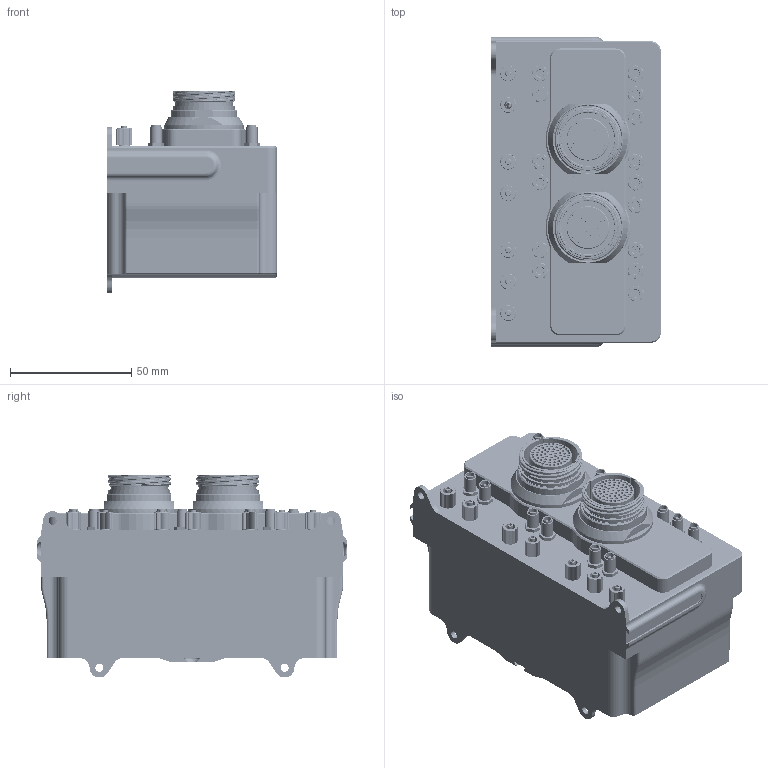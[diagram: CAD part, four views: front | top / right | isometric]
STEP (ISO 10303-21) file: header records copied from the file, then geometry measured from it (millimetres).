
FILE_DESCRIPTION(/* description */ (''),/* implementation_level */ '2;1');
FILE_NAME(/* name */ 'C:\Releases\4xVeronte\3d_4xVeronte\181010\RMTID-181010\RMTID-181010_website\3d_4xVeronte - RMTID-181010.stp',/* time_stamp */ '2022-11-02T10:09:56+01:00',/* author */ ('jbs3'),/* organization */ (''),/* preprocessor_version */ 'ST-DEVELOPER v17',/* originating_system */ 'Autodesk Inventor 2018',/* authorisation */ '');
FILE_SCHEMA (('AUTOMOTIVE_DESIGN { 1 0 10303 214 3 1 1 }'));
Products named in the file (1): 000 Ensamblaje - 3d_4xVeronte - RMTID
Bounding box: 70 x 127.9 x 83.8 mm (x, y, z)
Volume: 91793.6 mm3; surface area: 117493.4 mm2
Topology: 44 solids, 44 shells, 5303 faces, 13742 edges, 9085 vertices
Faces by surface type: plane 2261, cylinder 1972, cone 948, torus 64, bspline 56, sphere 2
Full cylindrical faces by diameter (mm): 0.5 x15, 0.662 x1, 0.7 x204, 0.81 x4, 0.865 x15, 0.92 x8, 1.1 x4, 1.15 x136, 1.5 x7, 2 x6, 2.1 x1, 2.4 x12, 2.45 x14, 2.459 x4, 2.5 x15, 3 x4, 3.175 x6, 3.2 x19, 3.25 x7, 3.3 x4, 3.9 x15, 4.1 x7, 4.5 x11, 4.826 x30, 5 x30, 5.12 x7, 5.45 x7, 6 x4, 7 x15, 7.8 x15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
Entity records: 183177 total; most frequent: CARTESIAN_POINT 51000, ORIENTED_EDGE 27436, DIRECTION 25439, EDGE_CURVE 13718, AXIS2_PLACEMENT_3D 9494, VERTEX_POINT 9085, LINE 6451, VECTOR 6451
